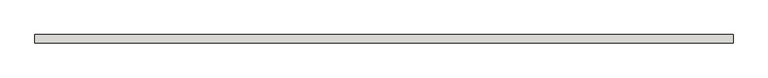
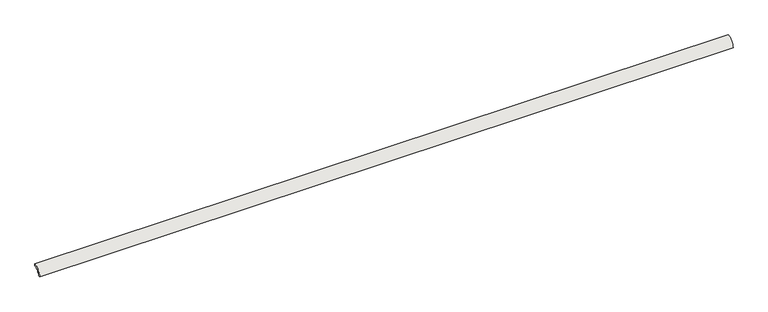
"""IFC4 building model written with IfcOpenShell, lengths in millimetres: slab geometry, ROSA GRES_183 : Pieza 183_Pietro_White_Anti-Slip."""

from ifc_helpers import new_model, si_unit, point, frame, frame_2d, origin, origin_2d, place, context, project, spatial, polyline, circle_curve, trimmed, segment, composite_curve, outline, extrude, source, transform, mapped, element, save


def slab_b30ccb72(model_context):
    return source(origin(), model_context, "Body", "SweptSolid", [
        extrude(outline(composite_curve([segment(polyline([(0.0, 40.0), (0.0, 30.0265886)]), True, "CONTINUOUS"), segment(trimmed(circle_curve(frame_2d((-0.0044453, 0.0044453)), 30.0221435), [point((0.0, 30.0265886))], [point((-30.0265886, 0.0))], True, "CARTESIAN"), True, "CONTINUOUS"), segment(polyline([(-30.0265886, 0.0), (-40.0, 0.0)]), True, "CONTINUOUS"), segment(trimmed(circle_curve(origin_2d(), 40.0), [point((-40.0, 0.0))], [point((0.0, 40.0))], False, "CARTESIAN"), True, "CONTINUOUS")], self_intersect=False)), frame((0.0, 0.0, 0.0), z_axis=(1.0, 0.0, 0.0), x_axis=(0.0, 1.0, 0.0)), (0.0, 0.0, 1.0), 3263.8074985),
    ])


if __name__ == "__main__":
    model = new_model("IFC4")
    model_context = context("Model", 3, world=origin())
    ifc_project = project(units=[si_unit("LENGTHUNIT", "METRE", prefix="MILLI")], contexts=[model_context])
    site = spatial("IfcSite", under=ifc_project)
    building = spatial("IfcBuilding", under=site)
    placement = place(None, origin())
    slab_shape = slab_b30ccb72(model_context)
    element("IfcSlab", 1, ObjectType="ROSA GRES_183 : Pieza 183_Pietro_White_Anti-Slip", at=placement, inside=building, context=model_context, shape_type="MappedRepresentation", body=[
        mapped(slab_shape, transform((0.0, 0.0, 0.0), x_axis=(1.0, 0.0, 0.0), y_axis=(0.0, 1.0, 0.0), z_axis=(0.0, 0.0, 1.0))),
    ])
    save(model, "model.ifc")
